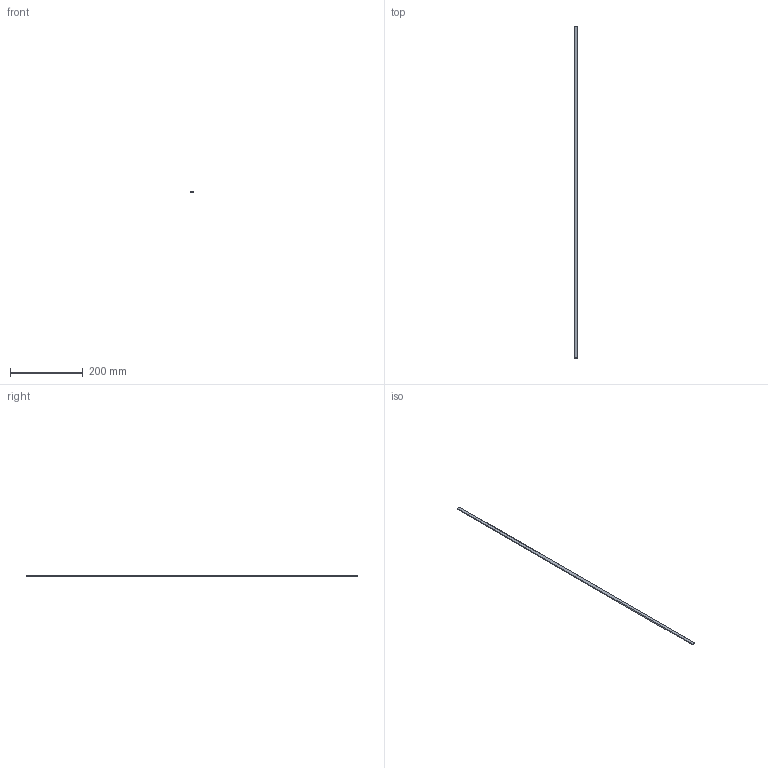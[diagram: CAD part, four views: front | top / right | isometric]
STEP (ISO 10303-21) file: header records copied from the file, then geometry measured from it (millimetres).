
FILE_DESCRIPTION(/* description */ (''),/* implementation_level */ '2;1');
FILE_NAME(/* name */ 'C:/Users/drich/Desktop/BM14 v1.step',/* time_stamp */ '2020-01-04T15:38:52-06:00',/* author */ (''),/* organization */ (''),/* preprocessor_version */ 'ST-DEVELOPER v18',/* originating_system */ 'Autodesk Translation Framework v8.12.0.6',/* authorisation */ '');
FILE_SCHEMA (('AUTOMOTIVE_DESIGN { 1 0 10303 214 3 1 1 }'));
Length unit declared in the file: inch
Products named in the file (1): BM14
Bounding box: 10.97 x 914.4 x 2.16 mm (x, y, z)
Volume: 20747.7 mm3; surface area: 22366.2 mm2
Topology: 1 solids, 1 shells, 6 faces, 12 edges, 8 vertices
Faces by surface type: plane 4, cylinder 2
Entity records: 202 total; most frequent: DIRECTION 30, CARTESIAN_POINT 27, ORIENTED_EDGE 24, EDGE_CURVE 12, AXIS2_PLACEMENT_3D 11, LINE 8, VECTOR 8, VERTEX_POINT 8
